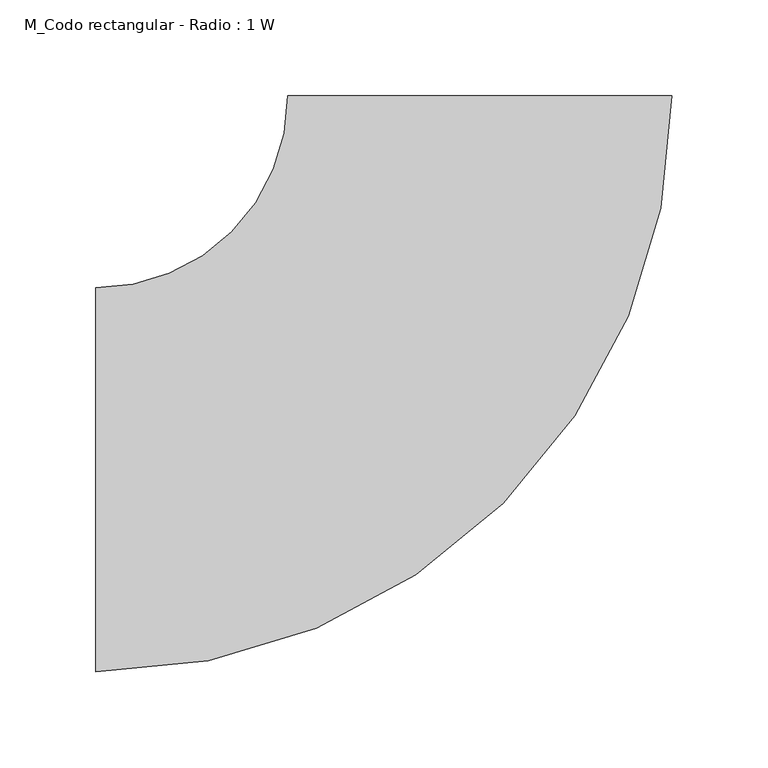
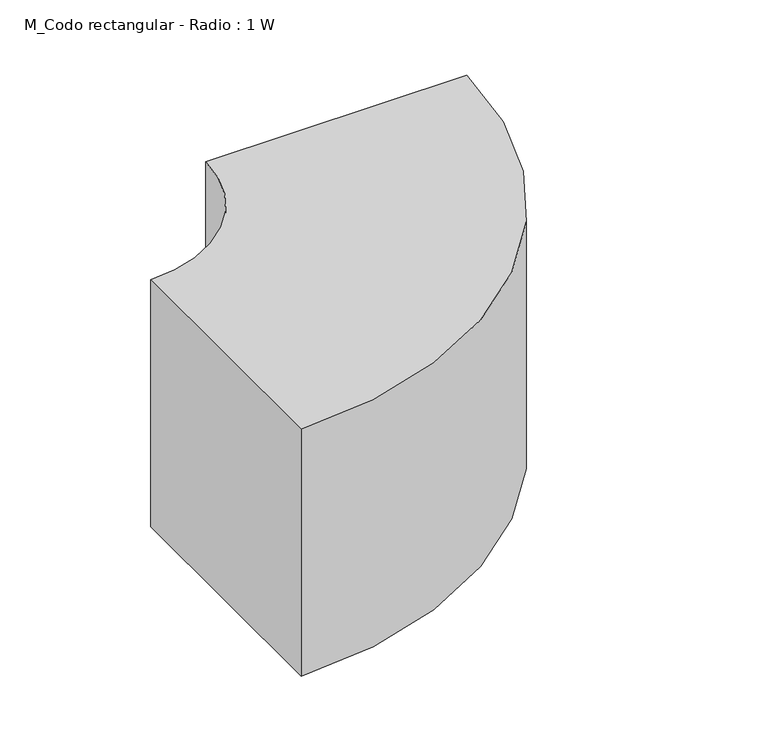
"""IFC4 building model written with IfcOpenShell, lengths in millimetres: duct fitting geometry, M_Codo rectangular - Radio : 1 W."""

from ifc_helpers import new_model, si_unit, point, frame, frame_2d, origin, place, context, project, spatial, polyline, circle_curve, trimmed, segment, composite_curve, outline, extrude, source, transform, mapped, element, save


def m_codo_rectangular_radio_1_w_de4f81ae(model_context):
    return source(origin(), model_context, "Body", "SweptSolid", [
        extrude(outline(composite_curve([segment(trimmed(circle_curve(frame_2d((-200.0, 200.0)), 300.0), [point((100.0, 200.0))], [point((-200.0, -100.0))], False, "CARTESIAN"), True, "CONTINUOUS"), segment(polyline([(-200.0, -100.0), (-200.0, 100.0)]), True, "CONTINUOUS"), segment(trimmed(circle_curve(frame_2d((-200.0, 200.0)), 100.0), [point((-200.0, 100.0))], [point((-100.0, 200.0))], True, "CARTESIAN"), True, "CONTINUOUS"), segment(polyline([(-100.0, 200.0), (100.0, 200.0)]), True, "CONTINUOUS")], self_intersect=False)), frame((0.0, 0.0, -100.0), z_axis=(0.0, 0.0, 1.0), x_axis=(1.0, 0.0, 0.0)), (0.0, 0.0, 1.0), 200.0),
    ])


if __name__ == "__main__":
    model = new_model("IFC4")
    model_context = context("Model", 3, world=origin())
    ifc_project = project(units=[si_unit("LENGTHUNIT", "METRE", prefix="MILLI")], contexts=[model_context])
    site = spatial("IfcSite", under=ifc_project)
    building = spatial("IfcBuilding", under=site)
    placement = place(None, origin())
    m_codo_rectangular_radio_1_w_shape = m_codo_rectangular_radio_1_w_de4f81ae(model_context)
    element("IfcDuctFitting", 1, ObjectType="M_Codo rectangular - Radio : 1 W", at=placement, inside=building, context=model_context, shape_type="MappedRepresentation", body=[
        mapped(m_codo_rectangular_radio_1_w_shape, transform((0.0, 0.0, 0.0), x_axis=(1.0, 0.0, 0.0), y_axis=(0.0, 1.0, 0.0), z_axis=(0.0, 0.0, 1.0))),
    ])
    save(model, "model.ifc")
